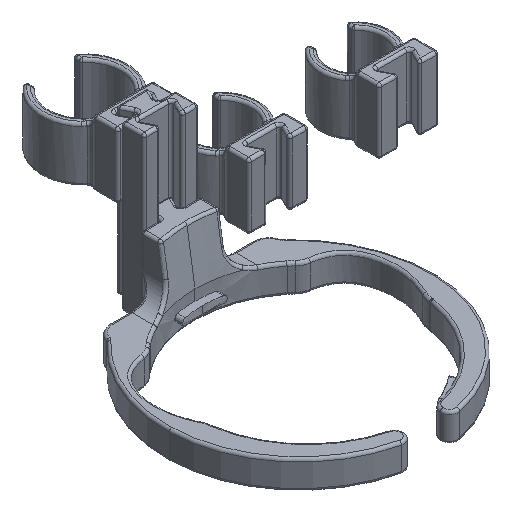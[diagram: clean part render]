
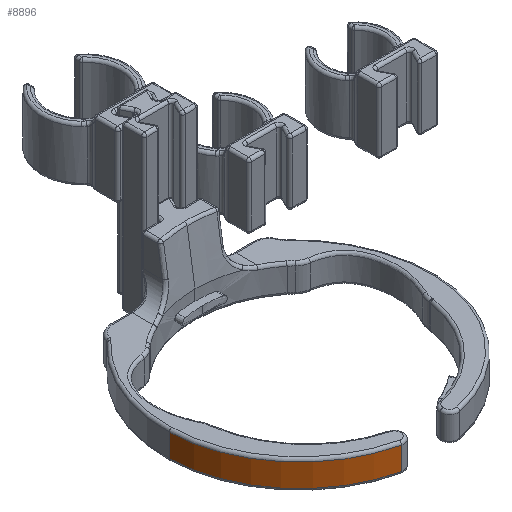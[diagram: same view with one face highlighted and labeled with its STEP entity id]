
A CAD part, isometric view. The second image highlights one B-rep face of the part: STEP entity #8896.
In plain terms, the highlighted cylindrical face has radius 24.606 mm (diameter 49.212 mm), a partial arc.
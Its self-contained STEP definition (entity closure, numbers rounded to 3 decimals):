
#699=LINE('',#20753,#1075);
#700=LINE('',#20755,#1076);
#1075=VECTOR('',#12914,10.);
#1076=VECTOR('',#12917,10.);
#1287=CYLINDRICAL_SURFACE('',#10165,24.606);
#1880=FACE_OUTER_BOUND('',#2491,.T.);
#2491=EDGE_LOOP('',(#8053,#8054,#8055,#8056));
#3341=CIRCLE('',#9949,24.606);
#3430=CIRCLE('',#10100,24.606);
#4056=VERTEX_POINT('',#19052);
#4058=VERTEX_POINT('',#19058);
#4157=VERTEX_POINT('',#20189);
#4159=VERTEX_POINT('',#20195);
#5251=EDGE_CURVE('',#4058,#4056,#3341,.T.);
#5422=EDGE_CURVE('',#4159,#4157,#3430,.T.);
#5492=EDGE_CURVE('',#4157,#4058,#699,.T.);
#5493=EDGE_CURVE('',#4056,#4159,#700,.T.);
#8053=ORIENTED_EDGE('',*,*,#5251,.F.);
#8054=ORIENTED_EDGE('',*,*,#5492,.F.);
#8055=ORIENTED_EDGE('',*,*,#5422,.F.);
#8056=ORIENTED_EDGE('',*,*,#5493,.F.);
#8896=ADVANCED_FACE('',(#1880),#1287,.T.);
#9949=AXIS2_PLACEMENT_3D('',#19060,#12426,#12427);
#10100=AXIS2_PLACEMENT_3D('',#20197,#12770,#12771);
#10165=AXIS2_PLACEMENT_3D('',#20754,#12915,#12916);
#12426=DIRECTION('center_axis',(0.,0.,
-1.));
#12427=DIRECTION('ref_axis',(-0.772,-0.636,0.));
#12770=DIRECTION('center_axis',(0.,0.,1.));
#12771=DIRECTION('ref_axis',(-0.772,-0.636,0.));
#12914=DIRECTION('',(0.,0.,-1.));
#12915=DIRECTION('center_axis',(0.,0.,-1.));
#12916=DIRECTION('ref_axis',(-1.,0.,0.));
#12917=DIRECTION('',(0.,0.,1.));
#19052=CARTESIAN_POINT('',(-24.597,19.908,-14.98));
#19058=CARTESIAN_POINT('',(-5.359,-3.456,-14.98));
#19060=CARTESIAN_POINT('Origin',(0.,20.56,-14.98));
#20189=CARTESIAN_POINT('',(-5.359,-3.456,-10.78));
#20195=CARTESIAN_POINT('',(-24.597,19.908,-10.78));
#20197=CARTESIAN_POINT('Origin',(0.,20.56,-10.78));
#20753=CARTESIAN_POINT('',(-5.359,-3.456,-10.28));
#20754=CARTESIAN_POINT('Origin',(0.,20.56,-10.28));
#20755=CARTESIAN_POINT('',(-24.597,19.908,-10.28));
